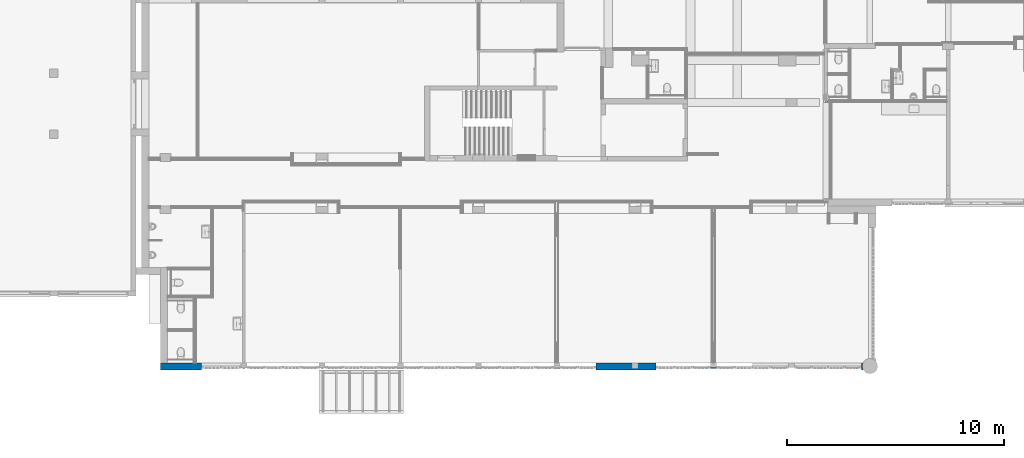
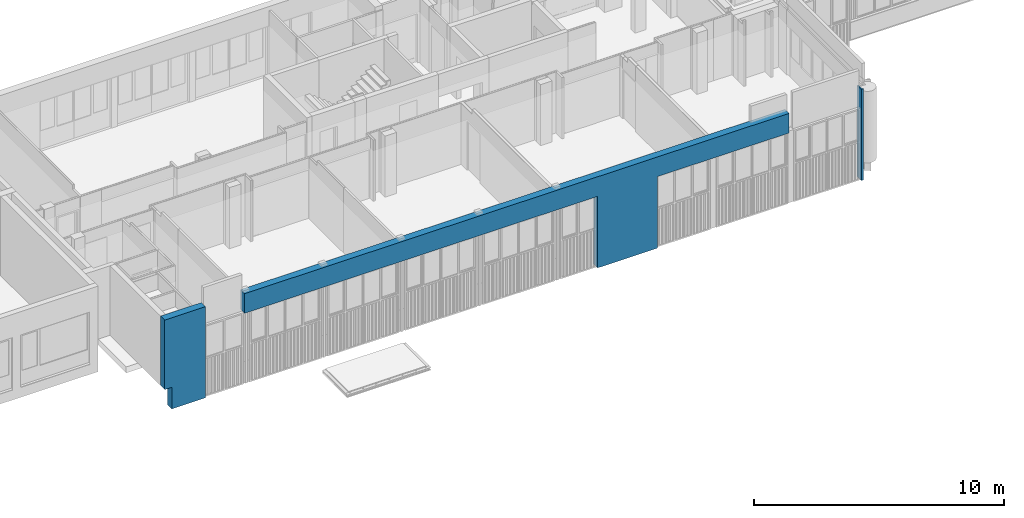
# One storey, part 38 of 117: 1 wall, 15 openings.
"""IFC2X3 building model written with IfcOpenShell, lengths in millimetres."""

from ifc_helpers import new_model, entity, si_unit, converted_unit, derived_unit, money_unit, direction, frame, origin_with_axes, place, context, subcontext, project, spatial, faceted_brep, material, type_object, element, save


model = new_model("IFC2X3")

# Units and contexts
model_context = context("Model", 3, precision=0.01, world=origin_with_axes(), true_north=direction((0.0, 1.0)))
body_context = subcontext(model_context, "Body", "Model", "MODEL_VIEW")
ifc_project = project(units=[si_unit("LENGTHUNIT", "METRE", prefix="MILLI"), si_unit("AREAUNIT", "SQUARE_METRE"), si_unit("VOLUMEUNIT", "CUBIC_METRE"), converted_unit("PLANEANGLEUNIT", "DEGREE", entity("IfcPlaneAngleMeasure", 0.0174532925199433), si_unit("PLANEANGLEUNIT", "RADIAN"), dimensions=[0, 0, 0, 0, 0, 0, 0]), money_unit("EUR"), converted_unit("TIMEUNIT", "Year", entity("IfcTimeMeasure", 31557600.0), si_unit("TIMEUNIT", "SECOND"), dimensions=[0, 0, 1, 0, 0, 0, 0]), si_unit("MASSUNIT", "GRAM", prefix="KILO"), si_unit("THERMODYNAMICTEMPERATUREUNIT", "DEGREE_CELSIUS"), si_unit("LUMINOUSINTENSITYUNIT", "LUMEN"), si_unit("ENERGYUNIT", "JOULE", prefix="MEGA"), derived_unit("THERMALCONDUCTANCEUNIT", [(si_unit("POWERUNIT", "WATT"), 1), (si_unit("LENGTHUNIT", "METRE"), -1), (si_unit("THERMODYNAMICTEMPERATUREUNIT", "KELVIN"), -1)]), derived_unit("SPECIFICHEATCAPACITYUNIT", [(si_unit("ENERGYUNIT", "JOULE"), 1), (si_unit("MASSUNIT", "GRAM", prefix="KILO"), -1), (si_unit("THERMODYNAMICTEMPERATUREUNIT", "KELVIN"), -1)]), derived_unit("MASSDENSITYUNIT", [(si_unit("MASSUNIT", "GRAM", prefix="KILO"), 1), (si_unit("VOLUMEUNIT", "CUBIC_METRE"), -1)])], contexts=[model_context])

# Site, building, storey
site_placement = place(None, origin_with_axes())
site = spatial("IfcSite", under=ifc_project, at=site_placement, Name="Site", CompositionType="ELEMENT")
building_placement = place(site_placement, origin_with_axes())
building = spatial("IfcBuilding", under=site, at=building_placement, Name="Naam gebouw", CompositionType="ELEMENT")
storey_placement = place(building_placement, frame((0.0, 0.0, 4150.0), z_axis=(0.0, 0.0, 1.0), x_axis=(1.0, 0.0, 0.0)))
storey = spatial("IfcBuildingStorey", under=building, at=storey_placement, Name="1e verdieping N", CompositionType="ELEMENT", Elevation=4150.0)

# Wall, openings
ifc_material = material(Name="ALG - CONSTRUCTIEF")
wall_type = type_object("IfcWallType", Name="ALG - CONSTRUCTIEF 330", PredefinedType="NOTDEFINED")
wall_placement = place(storey_placement, frame((100.0000479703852, 3445.668707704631, -1060.000000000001), z_axis=(0.0, 0.0, 1.0), x_axis=(1.0, 0.0, 0.0)))
wall = element("IfcWall", 1, at=wall_placement, inside=storey, type_object=wall_type, material=ifc_material, Name="_Wand-x", context=body_context, shape_type="Brep", body=[
    faceted_brep([(28562.53082079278, -259.9999999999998, 3500.0), (28562.53082079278, -0.009613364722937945, 3500.0), (28562.53082079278, -0.009644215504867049, 3510.361937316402), (28562.53082079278, -0.009644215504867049, 4460.000000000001), (28562.53082079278, -329.9999999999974, 4460.000000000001), (28562.53082079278, -329.9999999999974, 3500.0), (22469.72934491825, -329.9999999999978, 3500.0), (22469.72934491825, -0.006896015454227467, 3500.0), (26899.99021170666, -0.008871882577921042, 3500.0), (25237.44960262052, -259.9999999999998, 3500.0), (25237.44960262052, -215.999999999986, 3500.0), (24962.44960262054, -215.999999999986, 3500.0), (24962.44960262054, -259.9999999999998, 3500.0), (22469.72934491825, -0.0003606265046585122, 1304.94086197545), (19699.94960262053, -0.0004870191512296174, 1762.297506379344), (19699.94960262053, -0.005660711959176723, 3500.0), (9176.317282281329, -0.00096724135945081, 3500.0), (3362.498711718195, -0.001232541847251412, 4459.999999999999), (3362.498711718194, -329.9999999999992, 4460.000000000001), (19699.94960262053, -329.9999999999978, 0.0), (22469.72934491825, -329.9999999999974, 0.0), (3362.499952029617, -329.9999999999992, 3500.0), (19699.94960262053, -329.9999999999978, 3500.0), (22469.72934491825, 0.0, 0.0), (19699.94960262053, -0.0001386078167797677, 1264.844805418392), (21769.99995202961, 0.0, 0.0), (21769.99995202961, 0.0, 860.0000000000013), (19699.94960262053, -0.001386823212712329, 1236.049057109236), (19699.94960262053, 0.0, 972.0460270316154), (19699.94960262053, 0.0, 0.0), (5299.999952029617, -0.00973599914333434, 3500.0), (7237.499952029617, -0.00973599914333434, 3500.0), (8271.16570913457, -0.0009038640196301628, 3500.0), (3362.499952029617, -259.9999999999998, 3500.0), (3637.499952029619, -259.9999999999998, 3500.0), (3637.499952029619, -215.9999999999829, 3500.0), (3362.499952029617, -215.9999999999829, 3500.0), (3362.499952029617, -0.0008845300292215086, 3500.0), (3909.557885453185, -0.0008845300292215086, 3500.0), (7237.499952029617, -259.9999999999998, 3500.0), (7237.499952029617, -215.9999999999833, 3500.0), (6962.499952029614, -215.9999999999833, 3500.0), (6962.499952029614, -259.9999999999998, 3500.0), (10837.49995202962, -215.9999999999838, 3500.0), (10562.49995202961, -215.9999999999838, 3500.0), (10562.49995202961, -259.9999999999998, 3500.0), (10837.44960262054, -259.9999999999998, 3500.0), (10837.49995202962, -259.9999999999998, 3500.0), (14162.4999520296, -259.9999999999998, 3500.0), (14437.44960262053, -259.9999999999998, 3500.0), (14437.49995202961, -259.9999999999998, 3500.0), (14437.49995202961, -215.9999999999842, 3500.0), (14162.4999520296, -215.9999999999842, 3500.0), (18037.44960262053, -259.9999999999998, 3500.0), (18037.49995202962, -259.9999999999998, 3500.0), (18037.49995202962, -215.9999999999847, 3500.0), (17762.49995202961, -215.9999999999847, 3500.0), (17762.49995202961, -259.9999999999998, 3500.0), (21229.99995202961, -149.9999999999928, 0.0), (21769.99995202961, -149.9999999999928, 0.0), (21229.99995202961, 0.0, 0.0), (21769.99995202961, -149.9999999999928, 860.0000000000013), (21229.99995202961, 0.0, 860.0000000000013), (21229.99995202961, -149.9999999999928, 860.0000000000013)], [[[0, 1, 2, 3, 4, 5]], [[0, 5, 6, 7, 8, 1], [9, 10, 11, 12]], [[1, 8, 7, 13, 14, 15, 16, 17, 2]], [[3, 2, 17]], [[18, 4, 3, 17]], [[19, 20, 6, 5, 4, 18, 21, 22]], [[13, 7, 6, 20, 23]], [[10, 9, 12, 11]], [[24, 14, 13, 23, 25, 26]], [[24, 27, 28, 29, 19, 22, 15, 14]], [[30, 31, 32, 16, 15, 22, 21, 33, 34, 35, 36, 37, 38], [39, 40, 41, 42], [43, 44, 45, 46, 47], [48, 49, 50, 51, 52], [53, 54, 55, 56, 57]], [[32, 17, 16]], [[37, 36, 33, 21, 18, 17]], [[58, 59, 25, 23, 20, 19, 29, 60]], [[26, 25, 59, 61]], [[27, 24, 26]], [[28, 27, 26]], [[60, 29, 28, 26, 62]], [[17, 31, 30]], [[32, 31, 17]], [[35, 34, 33, 36]], [[38, 37, 17]], [[30, 38, 17]], [[40, 39, 42, 41]], [[46, 45, 44, 43, 47]], [[52, 51, 50, 49, 48]], [[55, 54, 53, 57, 56]], [[63, 61, 59, 58]], [[63, 58, 60, 62]], [[61, 63, 62, 26]]]),
    faceted_brep([(31907.53776092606, -0.009735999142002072, 4460.000000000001), (31981.65180804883, -0.007600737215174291, 4460.000000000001), (31981.65595836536, 0.0, 0.0), (31907.53082079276, 0.0, 0.0), (31907.53082079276, -0.009735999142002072, 3500.0), (31907.53082079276, -146.009735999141, 4460.000000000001), (31907.53082079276, -329.9999999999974, 4460.000000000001), (32003.01155078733, -329.9999999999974, 4460.000000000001), (31981.62875365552, -290.8403308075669, 4460.000000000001), (31964.17741126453, -244.051471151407, 4460.000000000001), (31953.56244737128, -195.2552696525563, 4460.000000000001), (31949.9999520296, -145.4450762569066, 4460.000000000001), (31953.56244737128, -95.63488286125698, 4460.000000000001), (31964.17741126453, -46.83868136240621, 4460.000000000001), (31981.62875365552, -0.04982170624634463, 4460.000000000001), (31981.62875365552, -0.04982170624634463, 0.0), (31964.17741126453, -244.051471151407, 0.0), (31981.62875365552, -290.8403308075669, 0.0), (32003.01155078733, -329.9999999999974, 0.0), (31907.53082079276, -329.9999999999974, 0.0), (31964.17741126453, -46.83868136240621, 0.0), (31953.56244737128, -95.63488286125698, 0.0), (31949.9999520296, -145.4450762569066, 0.0), (31953.56244737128, -195.2552696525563, 0.0), (31907.53082079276, -146.0097359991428, 3500.0)], [[[0, 1, 2, 3, 4]], [[5, 6, 7, 8, 9, 10, 11, 12, 13, 14, 1, 0]], [[1, 14, 15, 2]], [[16, 17, 18, 19, 3, 2, 15, 20, 21, 22, 23]], [[5, 24, 4, 3, 19, 6]], [[24, 5, 0, 4]], [[19, 18, 7, 6]], [[8, 7, 18, 17]], [[16, 9, 8, 17]], [[23, 10, 9, 16]], [[11, 10, 23, 22]], [[12, 11, 22, 21]], [[13, 12, 21, 20]], [[14, 13, 20, 15]]]),
    faceted_brep([(0.0, -329.9999999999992, 0.0), (1562.498711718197, -329.9999999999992, 0.0), (1562.498711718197, -329.9999999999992, 3.260672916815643), (1562.449602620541, -329.9999999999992, 3.260672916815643), (1562.449602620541, -329.9999999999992, 5.291526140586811), (1562.498711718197, -329.9999999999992, 5.291526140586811), (1562.498711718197, -329.9999999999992, 4460.000000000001), (-330.0000000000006, -329.9999999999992, 4460.000000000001), (-330.0000000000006, -329.9999999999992, 1060.000000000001), (0.0, -329.9999999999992, 1060.000000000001), (1562.498711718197, 0.0, 0.0), (0.0, 0.0, 0.0), (1562.498711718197, -253.0097359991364, 28.5143329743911), (1562.498711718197, -253.0097359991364, 16.83613371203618), (1562.498711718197, -0.0006317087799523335, 4459.999999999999), (1562.498711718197, -255.0097359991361, 18.51433297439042), (1562.498711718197, -255.0097359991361, 28.51433297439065), (1562.449602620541, -253.0097359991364, 16.83613371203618), (1562.449602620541, -253.0097359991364, 28.51433297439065), (1562.449602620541, -255.0097359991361, 28.51433297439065), (1562.449602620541, -255.0097359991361, 18.51433297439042), (-330.0000000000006, 0.0, 4460.000000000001), (-330.0000000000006, 0.0, 1060.000000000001), (0.0, 0.0, 1060.000000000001)], [[[0, 1, 2, 3, 4, 5, 6, 7, 8, 9]], [[10, 1, 0, 11]], [[12, 13, 2, 1, 10, 14, 6, 5, 15, 16]], [[3, 2, 13, 17]], [[17, 18, 19, 20, 4, 3]], [[5, 4, 20, 15]], [[7, 6, 14, 21]], [[8, 7, 21, 22]], [[9, 8, 22, 23]], [[0, 9, 23, 11]], [[23, 22, 21, 14, 10, 11]], [[18, 17, 13, 12]], [[20, 19, 16, 15]], [[19, 18, 12, 16]]]),
])
opening_1_placement = place(wall_placement, frame((6131.249952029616, 0.0, 0.0), z_axis=(0.0, 0.0, 1.0), x_axis=(1.0, 0.0, 0.0)))
element("IfcOpeningElement", 2, at=opening_1_placement, cuts=wall, Name="_Merk-044", context=body_context, shape_type="Brep", body=[
    faceted_brep([(1106.25, -259.9999999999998, -1060.000000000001), (1106.25, -259.9999999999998, 3499.999999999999), (1106.25, -331.0000000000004, 3499.999999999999), (1106.25, -331.0000000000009, -1060.000000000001), (1106.25, 0.9999999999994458, -1060.000000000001), (1106.25, 0.9999999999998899, 3499.999999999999), (-831.2499999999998, -259.9999999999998, 3499.999999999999), (-831.2499999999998, -331.0000000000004, 3499.999999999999), (-831.2499999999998, 0.9999999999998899, 3499.999999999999), (-831.2499999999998, -331.0000000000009, -1060.000000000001), (-831.2499999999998, -259.9999999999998, -1060.000000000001), (-831.2499999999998, 0.9999999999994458, -1060.000000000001)], [[[0, 1, 2, 3]], [[1, 0, 4, 5]], [[6, 7, 2, 1, 5, 8]], [[7, 9, 3, 2]], [[0, 3, 9, 10, 11, 4]], [[5, 4, 11, 8]], [[6, 10, 9, 7]], [[10, 6, 8, 11]]]),
])
opening_2_placement = place(wall_placement, frame((2462.498711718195, 0.0, 0.0), z_axis=(0.0, 0.0, 1.0), x_axis=(1.0, 0.0, 0.0)))
element("IfcOpeningElement", 3, at=opening_2_placement, cuts=wall, Name="_Merk-042", context=body_context, shape_type="Brep", body=[
    faceted_brep([(899.9999999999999, -259.9999999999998, 0.0), (899.9999999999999, -259.9999999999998, 4500.0), (899.9999999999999, -330.9999999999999, 4500.0), (899.9999999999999, -331.0000000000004, 0.0), (899.9999999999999, 0.9999999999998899, 0.0), (899.9999999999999, 1.000000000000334, 4500.0), (-899.9999999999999, -259.9999999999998, 4500.0), (-899.9999999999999, -330.9999999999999, 4500.0), (-899.9999999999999, 1.000000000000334, 4500.0), (-899.9999999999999, -331.0000000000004, 0.0), (-899.9999999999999, -259.9999999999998, 0.0), (-899.9999999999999, 0.9999999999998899, 0.0)], [[[0, 1, 2, 3]], [[1, 0, 4, 5]], [[6, 7, 2, 1, 5, 8]], [[7, 9, 3, 2]], [[0, 3, 9, 10, 11, 4]], [[5, 4, 11, 8]], [[6, 10, 9, 7]], [[10, 6, 8, 11]]]),
])
opening_3_placement = place(wall_placement, frame((31140.03082079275, 0.0, 0.0), z_axis=(0.0, 0.0, 1.0), x_axis=(1.0, 0.0, 0.0)))
element("IfcOpeningElement", 4, at=opening_3_placement, cuts=wall, Name="_Merk-043", context=body_context, shape_type="Brep", body=[
    faceted_brep([(767.5000000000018, -259.9999999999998, 0.0), (767.5000000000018, -259.9999999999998, 4500.0), (767.5000000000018, -330.9999999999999, 4500.0), (767.5000000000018, -331.0000000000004, 0.0), (767.5000000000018, 0.9999999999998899, 0.0), (767.5000000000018, 1.000000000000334, 4500.0), (-767.4999999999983, -259.9999999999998, 4500.0), (-767.4999999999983, -330.9999999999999, 4500.0), (-767.4999999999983, 1.000000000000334, 4500.0), (-767.4999999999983, -331.0000000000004, 0.0), (-767.4999999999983, -259.9999999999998, 0.0), (-767.4999999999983, 0.9999999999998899, 0.0)], [[[0, 1, 2, 3]], [[1, 0, 4, 5]], [[6, 7, 2, 1, 5, 8]], [[7, 9, 3, 2]], [[0, 3, 9, 10, 11, 4]], [[5, 4, 11, 8]], [[6, 10, 9, 7]], [[10, 6, 8, 11]]]),
])
opening_4_placement = place(wall_placement, frame((29605.03082079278, 0.0, 0.0), z_axis=(0.0, 0.0, 1.0), x_axis=(1.0, 0.0, 0.0)))
element("IfcOpeningElement", 5, at=opening_4_placement, cuts=wall, Name="_Merk-43sp", context=body_context, shape_type="Brep", body=[
    faceted_brep([(767.4999999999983, -259.9999999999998, 0.0), (767.4999999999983, -259.9999999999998, 4500.0), (767.4999999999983, -330.9999999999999, 4500.0), (767.4999999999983, -331.0000000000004, 0.0), (767.4999999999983, 0.9999999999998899, 0.0), (767.4999999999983, 1.000000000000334, 4500.0), (-1042.5, -259.9999999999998, 4500.0), (-1042.5, -330.9999999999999, 4500.0), (-1042.5, 1.000000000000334, 4500.0), (-1042.5, -331.0000000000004, 0.0), (-1042.5, -259.9999999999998, 0.0), (-1042.5, 0.9999999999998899, 0.0)], [[[0, 1, 2, 3]], [[1, 0, 4, 5]], [[6, 7, 2, 1, 5, 8]], [[7, 9, 3, 2]], [[0, 3, 9, 10, 11, 4]], [[5, 4, 11, 8]], [[6, 10, 9, 7]], [[10, 6, 8, 11]]]),
])
opening_5_placement = place(wall_placement, frame((26068.7199071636, 0.0, 0.0), z_axis=(0.0, 0.0, 1.0), x_axis=(1.0, 0.0, 0.0)))
element("IfcOpeningElement", 6, at=opening_5_placement, cuts=wall, Name="_Merk-044", context=body_context, shape_type="Brep", body=[
    faceted_brep([(831.270304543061, -259.9999999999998, -1060.000000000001), (831.270304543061, -259.9999999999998, 3500.0), (831.270304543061, -331.0000000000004, 3500.0), (831.270304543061, -331.0000000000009, -1060.000000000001), (831.270304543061, 0.9999999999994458, -1060.000000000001), (831.270304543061, 0.9999999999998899, 3500.0), (-1106.270304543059, -259.9999999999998, 3500.0), (-1106.270304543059, -331.0000000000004, 3500.0), (-1106.270304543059, 0.9999999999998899, 3500.0), (-1106.270304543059, -331.0000000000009, -1060.000000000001), (-1106.270304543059, -259.9999999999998, -1060.000000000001), (-1106.270304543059, 0.9999999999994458, -1060.000000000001)], [[[0, 1, 2, 3]], [[1, 0, 4, 5]], [[6, 7, 2, 1, 5, 8]], [[7, 9, 3, 2]], [[0, 3, 9, 10, 11, 4]], [[5, 4, 11, 8]], [[6, 10, 9, 7]], [[10, 6, 8, 11]]]),
])
opening_6_placement = place(wall_placement, frame((23715.97934491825, 0.0, 0.0), z_axis=(0.0, 0.0, 1.0), x_axis=(1.0, 0.0, 0.0)))
element("IfcOpeningElement", 7, at=opening_6_placement, cuts=wall, Name="_Merk-045", context=body_context, shape_type="Brep", body=[
    faceted_brep([(1521.250000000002, -259.9999999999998, -1060.000000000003), (1521.250000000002, -259.9999999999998, 3499.999999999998), (1521.250000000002, -330.9999999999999, 3499.999999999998), (1521.250000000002, -331.0000000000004, -1060.000000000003), (1521.250000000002, 0.9999999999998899, -1060.000000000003), (1521.250000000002, 1.000000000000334, 3499.999999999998), (-1246.25, -259.9999999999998, 3499.999999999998), (-1246.25, -330.9999999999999, 3499.999999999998), (-1246.25, 1.000000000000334, 3499.999999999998), (-1246.25, -331.0000000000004, -1060.000000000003), (-1246.25, -259.9999999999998, -1060.000000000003), (-1246.25, 0.9999999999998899, -1060.000000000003)], [[[0, 1, 2, 3]], [[1, 0, 4, 5]], [[6, 7, 2, 1, 5, 8]], [[7, 9, 3, 2]], [[0, 3, 9, 10, 11, 4]], [[5, 4, 11, 8]], [[6, 10, 9, 7]], [[10, 6, 8, 11]]]),
])
opening_7_placement = place(wall_placement, frame((4468.749952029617, 0.0, 0.0), z_axis=(0.0, 0.0, 1.0), x_axis=(1.0, 0.0, 0.0)))
element("IfcOpeningElement", 8, at=opening_7_placement, cuts=wall, Name="_Merk-044sp", context=body_context, shape_type="Brep", body=[
    faceted_brep([(831.2499999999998, -259.9999999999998, -1060.000000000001), (831.2499999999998, -259.9999999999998, 3499.999999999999), (831.2499999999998, -331.0000000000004, 3499.999999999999), (831.2499999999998, -331.0000000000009, -1060.000000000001), (831.2499999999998, 0.9999999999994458, -1060.000000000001), (831.2499999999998, 0.9999999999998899, 3499.999999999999), (-1106.25, -259.9999999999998, 3499.999999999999), (-1106.25, -331.0000000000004, 3499.999999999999), (-1106.25, 0.9999999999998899, 3499.999999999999), (-1106.25, -331.0000000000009, -1060.000000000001), (-1106.25, -259.9999999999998, -1060.000000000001), (-1106.25, 0.9999999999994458, -1060.000000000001)], [[[0, 1, 2, 3]], [[1, 0, 4, 5]], [[6, 7, 2, 1, 5, 8]], [[7, 9, 3, 2]], [[0, 3, 9, 10, 11, 4]], [[5, 4, 11, 8]], [[6, 10, 9, 7]], [[10, 6, 8, 11]]]),
])
opening_8_placement = place(wall_placement, frame((13331.19960262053, 0.0, 0.0), z_axis=(0.0, 0.0, 1.0), x_axis=(1.0, 0.0, 0.0)))
element("IfcOpeningElement", 9, at=opening_8_placement, cuts=wall, Name="_Merk-044", context=body_context, shape_type="Brep", body=[
    faceted_brep([(1106.250000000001, -259.9999999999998, -1060.000000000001), (1106.250000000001, -259.9999999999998, 3499.999999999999), (1106.250000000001, -331.0000000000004, 3499.999999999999), (1106.250000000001, -331.0000000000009, -1060.000000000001), (1106.250000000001, 0.9999999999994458, -1060.000000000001), (1106.250000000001, 0.9999999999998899, 3499.999999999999), (-831.2500000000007, -259.9999999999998, 3499.999999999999), (-831.2500000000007, -331.0000000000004, 3499.999999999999), (-831.2500000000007, 0.9999999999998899, 3499.999999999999), (-831.2500000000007, -331.0000000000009, -1060.000000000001), (-831.2500000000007, -259.9999999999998, -1060.000000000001), (-831.2500000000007, 0.9999999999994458, -1060.000000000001)], [[[0, 1, 2, 3]], [[1, 0, 4, 5]], [[6, 7, 2, 1, 5, 8]], [[7, 9, 3, 2]], [[0, 3, 9, 10, 11, 4]], [[5, 4, 11, 8]], [[6, 10, 9, 7]], [[10, 6, 8, 11]]]),
])
opening_9_placement = place(wall_placement, frame((8068.699602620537, 0.0, 0.0), z_axis=(0.0, 0.0, 1.0), x_axis=(1.0, 0.0, 0.0)))
element("IfcOpeningElement", 10, at=opening_9_placement, cuts=wall, Name="_Merk-044sp", context=body_context, shape_type="Brep", body=[
    faceted_brep([(831.2500000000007, -259.9999999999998, -1060.000000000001), (831.2500000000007, -259.9999999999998, 3499.999999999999), (831.2500000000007, -331.0000000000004, 3499.999999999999), (831.2500000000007, -331.0000000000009, -1060.000000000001), (831.2500000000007, 0.9999999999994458, -1060.000000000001), (831.2500000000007, 0.9999999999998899, 3499.999999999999), (-1106.25, -259.9999999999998, 3499.999999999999), (-1106.25, -331.0000000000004, 3499.999999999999), (-1106.25, 0.9999999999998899, 3499.999999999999), (-1106.25, -331.0000000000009, -1060.000000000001), (-1106.25, -259.9999999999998, -1060.000000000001), (-1106.25, 0.9999999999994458, -1060.000000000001)], [[[0, 1, 2, 3]], [[1, 0, 4, 5]], [[6, 7, 2, 1, 5, 8]], [[7, 9, 3, 2]], [[0, 3, 9, 10, 11, 4]], [[5, 4, 11, 8]], [[6, 10, 9, 7]], [[10, 6, 8, 11]]]),
])
opening_10_placement = place(wall_placement, frame((9731.199602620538, 0.0, 0.0), z_axis=(0.0, 0.0, 1.0), x_axis=(1.0, 0.0, 0.0)))
element("IfcOpeningElement", 11, at=opening_10_placement, cuts=wall, Name="_Merk-044", context=body_context, shape_type="Brep", body=[
    faceted_brep([(1106.250000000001, -259.9999999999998, -1060.000000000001), (1106.250000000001, -259.9999999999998, 3499.999999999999), (1106.250000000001, -331.0000000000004, 3499.999999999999), (1106.250000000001, -331.0000000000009, -1060.000000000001), (1106.250000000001, 0.9999999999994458, -1060.000000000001), (1106.250000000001, 0.9999999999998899, 3499.999999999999), (-831.2500000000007, -259.9999999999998, 3499.999999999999), (-831.2500000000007, -331.0000000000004, 3499.999999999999), (-831.2500000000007, 0.9999999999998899, 3499.999999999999), (-831.2500000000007, -331.0000000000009, -1060.000000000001), (-831.2500000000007, -259.9999999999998, -1060.000000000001), (-831.2500000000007, 0.9999999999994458, -1060.000000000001)], [[[0, 1, 2, 3]], [[1, 0, 4, 5]], [[6, 7, 2, 1, 5, 8]], [[7, 9, 3, 2]], [[0, 3, 9, 10, 11, 4]], [[5, 4, 11, 8]], [[6, 10, 9, 7]], [[10, 6, 8, 11]]]),
])
opening_11_placement = place(wall_placement, frame((11668.69960262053, 0.0, 0.0), z_axis=(0.0, 0.0, 1.0), x_axis=(1.0, 0.0, 0.0)))
element("IfcOpeningElement", 12, at=opening_11_placement, cuts=wall, Name="_Merk-044sp", context=body_context, shape_type="Brep", body=[
    faceted_brep([(831.2500000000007, -259.9999999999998, -1060.000000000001), (831.2500000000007, -259.9999999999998, 3499.999999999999), (831.2500000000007, -331.0000000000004, 3499.999999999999), (831.2500000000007, -331.0000000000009, -1060.000000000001), (831.2500000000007, 0.9999999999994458, -1060.000000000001), (831.2500000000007, 0.9999999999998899, 3499.999999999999), (-1106.250000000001, -259.9999999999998, 3499.999999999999), (-1106.250000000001, -331.0000000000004, 3499.999999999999), (-1106.250000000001, 0.9999999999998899, 3499.999999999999), (-1106.250000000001, -331.0000000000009, -1060.000000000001), (-1106.250000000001, -259.9999999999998, -1060.000000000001), (-1106.250000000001, 0.9999999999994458, -1060.000000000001)], [[[0, 1, 2, 3]], [[1, 0, 4, 5]], [[6, 7, 2, 1, 5, 8]], [[7, 9, 3, 2]], [[0, 3, 9, 10, 11, 4]], [[5, 4, 11, 8]], [[6, 10, 9, 7]], [[10, 6, 8, 11]]]),
])
opening_12_placement = place(wall_placement, frame((15268.69960262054, 0.0, 0.0), z_axis=(0.0, 0.0, 1.0), x_axis=(1.0, 0.0, 0.0)))
element("IfcOpeningElement", 13, at=opening_12_placement, cuts=wall, Name="_Merk-044sp", context=body_context, shape_type="Brep", body=[
    faceted_brep([(831.249999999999, -259.9999999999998, -1060.000000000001), (831.249999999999, -259.9999999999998, 3499.999999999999), (831.249999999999, -331.0000000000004, 3499.999999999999), (831.249999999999, -331.0000000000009, -1060.000000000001), (831.249999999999, 0.9999999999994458, -1060.000000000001), (831.249999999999, 0.9999999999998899, 3499.999999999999), (-1106.250000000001, -259.9999999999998, 3499.999999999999), (-1106.250000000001, -331.0000000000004, 3499.999999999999), (-1106.250000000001, 0.9999999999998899, 3499.999999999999), (-1106.250000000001, -331.0000000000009, -1060.000000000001), (-1106.250000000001, -259.9999999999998, -1060.000000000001), (-1106.250000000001, 0.9999999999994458, -1060.000000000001)], [[[0, 1, 2, 3]], [[1, 0, 4, 5]], [[6, 7, 2, 1, 5, 8]], [[7, 9, 3, 2]], [[0, 3, 9, 10, 11, 4]], [[5, 4, 11, 8]], [[6, 10, 9, 7]], [[10, 6, 8, 11]]]),
])
opening_13_placement = place(wall_placement, frame((18868.69960262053, 0.0, 0.0), z_axis=(0.0, 0.0, 1.0), x_axis=(1.0, 0.0, 0.0)))
element("IfcOpeningElement", 14, at=opening_13_placement, cuts=wall, Name="_Merk-046", context=body_context, shape_type="Brep", body=[
    faceted_brep([(831.2500000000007, -259.9999999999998, -1060.000000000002), (831.2500000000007, -259.9999999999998, 3499.999999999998), (831.2500000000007, -331.0000000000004, 3499.999999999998), (831.2500000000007, -331.0000000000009, -1060.000000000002), (831.2500000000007, 0.9999999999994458, -1060.000000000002), (831.2500000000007, 0.9999999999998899, 3499.999999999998), (-1106.249999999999, -259.9999999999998, 3499.999999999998), (-1106.249999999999, -331.0000000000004, 3499.999999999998), (-1106.249999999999, 0.9999999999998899, 3499.999999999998), (-1106.249999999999, -331.0000000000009, -1060.000000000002), (-1106.249999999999, -259.9999999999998, -1060.000000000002), (-1106.249999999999, 0.9999999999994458, -1060.000000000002)], [[[0, 1, 2, 3]], [[1, 0, 4, 5]], [[6, 7, 2, 1, 5, 8]], [[7, 9, 3, 2]], [[0, 3, 9, 10, 11, 4]], [[5, 4, 11, 8]], [[6, 10, 9, 7]], [[10, 6, 8, 11]]]),
])
opening_14_placement = place(wall_placement, frame((16931.19960262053, 0.0, 0.0), z_axis=(0.0, 0.0, 1.0), x_axis=(1.0, 0.0, 0.0)))
element("IfcOpeningElement", 15, at=opening_14_placement, cuts=wall, Name="_Merk-044", context=body_context, shape_type="Brep", body=[
    faceted_brep([(1106.249999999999, -259.9999999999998, -1060.000000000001), (1106.249999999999, -259.9999999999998, 3499.999999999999), (1106.249999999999, -331.0000000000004, 3499.999999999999), (1106.249999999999, -331.0000000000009, -1060.000000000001), (1106.249999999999, 0.9999999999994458, -1060.000000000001), (1106.249999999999, 0.9999999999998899, 3499.999999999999), (-831.2500000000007, -259.9999999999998, 3499.999999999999), (-831.2500000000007, -331.0000000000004, 3499.999999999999), (-831.2500000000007, 0.9999999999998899, 3499.999999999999), (-831.2500000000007, -331.0000000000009, -1060.000000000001), (-831.2500000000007, -259.9999999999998, -1060.000000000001), (-831.2500000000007, 0.9999999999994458, -1060.000000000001)], [[[0, 1, 2, 3]], [[1, 0, 4, 5]], [[6, 7, 2, 1, 5, 8]], [[7, 9, 3, 2]], [[0, 3, 9, 10, 11, 4]], [[5, 4, 11, 8]], [[6, 10, 9, 7]], [[10, 6, 8, 11]]]),
])
opening_15_placement = place(wall_placement, frame((27731.26051624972, 0.0, 0.0), z_axis=(0.0, 0.0, 1.0), x_axis=(1.0, 0.0, 0.0)))
element("IfcOpeningElement", 16, at=opening_15_placement, cuts=wall, Name="_Merk-044", context=body_context, shape_type="Brep", body=[
    faceted_brep([(1106.270304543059, -259.9999999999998, 0.0), (1106.270304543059, -259.9999999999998, 3500.0), (1106.270304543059, -330.9999999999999, 3500.0), (1106.270304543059, -331.0000000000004, 0.0), (1106.270304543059, 0.9999999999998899, 0.0), (1106.270304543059, 1.000000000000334, 3500.0), (-831.270304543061, -259.9999999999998, 3500.0), (-831.270304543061, -330.9999999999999, 3500.0), (-831.270304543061, 1.000000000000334, 3500.0), (-831.270304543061, -331.0000000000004, 0.0), (-831.270304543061, -259.9999999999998, 0.0), (-831.270304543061, 0.9999999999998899, 0.0)], [[[0, 1, 2, 3]], [[1, 0, 4, 5]], [[6, 7, 2, 1, 5, 8]], [[7, 9, 3, 2]], [[0, 3, 9, 10, 11, 4]], [[5, 4, 11, 8]], [[6, 10, 9, 7]], [[10, 6, 8, 11]]]),
])

save(model, "model.ifc")
